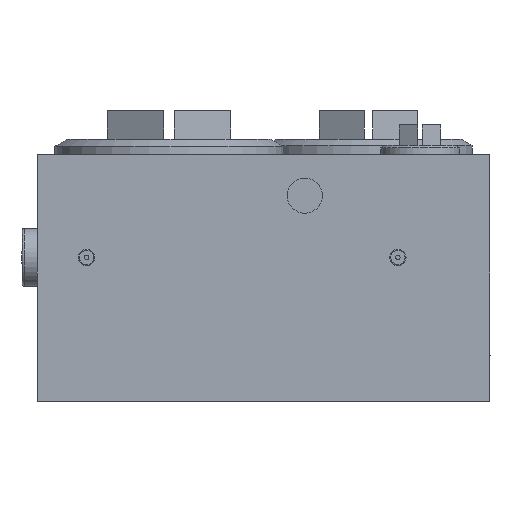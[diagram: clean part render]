
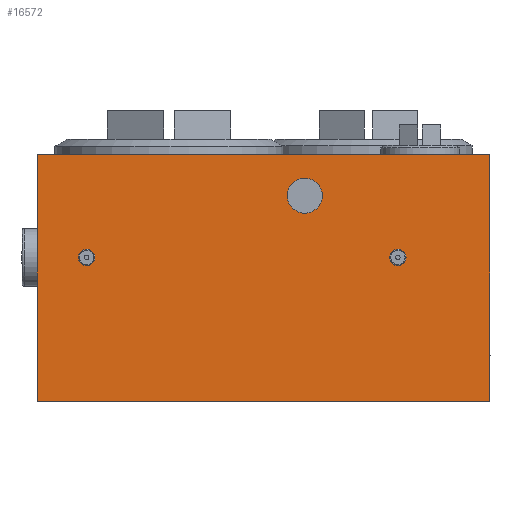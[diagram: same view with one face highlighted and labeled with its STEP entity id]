
A CAD part, left-side view. The second image highlights one B-rep face of the part: STEP entity #16572.
In plain terms, the highlighted planar face has unit normal (-1, 0, 0).
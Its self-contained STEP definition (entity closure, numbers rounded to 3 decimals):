
#1476 = FACE_BOUND ( 'NONE', #20568, .T. ) ;
#1507 = CARTESIAN_POINT ( 'NONE',  ( 0., -110., 0. ) ) ;
#2056 = ORIENTED_EDGE ( 'NONE', *, *, #21397, .F. ) ;
#2511 = CARTESIAN_POINT ( 'NONE',  ( 0., -110., 60. ) ) ;
#3288 = VERTEX_POINT ( 'NONE', #19279 ) ;
#3593 = DIRECTION ( 'NONE',  ( 1., 0., 0. ) ) ;
#3893 = ORIENTED_EDGE ( 'NONE', *, *, #16901, .F. ) ;
#4295 = EDGE_LOOP ( 'NONE', ( #17977 ) ) ;
#4305 = DIRECTION ( 'NONE',  ( 0., 0., 1. ) ) ;
#4559 = EDGE_CURVE ( 'NONE', #14317, #17355, #19371, .T. ) ;
#4968 = EDGE_LOOP ( 'NONE', ( #8102, #11429, #2056, #22033 ) ) ;
#5362 = EDGE_CURVE ( 'NONE', #3288, #17355, #24117, .T. ) ;
#5926 = CARTESIAN_POINT ( 'NONE',  ( 0., -110., 60. ) ) ;
#6388 = VERTEX_POINT ( 'NONE', #12188 ) ;
#6548 = CIRCLE ( 'NONE', #23202, 2. ) ;
#6880 = CARTESIAN_POINT ( 'NONE',  ( 0., -12., 37. ) ) ;
#7089 = EDGE_CURVE ( 'NONE', #20516, #3288, #7539, .T. ) ;
#7539 = LINE ( 'NONE', #13099, #21062 ) ;
#7554 = FACE_BOUND ( 'NONE', #4295, .T. ) ;
#8102 = ORIENTED_EDGE ( 'NONE', *, *, #5362, .T. ) ;
#9437 = VERTEX_POINT ( 'NONE', #18992 ) ;
#9526 = DIRECTION ( 'NONE',  ( 0., 0., 1. ) ) ;
#9633 = CARTESIAN_POINT ( 'NONE',  ( 0., -87.6, 35. ) ) ;
#10060 = DIRECTION ( 'NONE',  ( 0., 0., -1. ) ) ;
#10346 = EDGE_LOOP ( 'NONE', ( #23598 ) ) ;
#11382 = DIRECTION ( 'NONE',  ( 0., 1., 0. ) ) ;
#11420 = EDGE_CURVE ( 'NONE', #6388, #6388, #23839, .T. ) ;
#11429 = ORIENTED_EDGE ( 'NONE', *, *, #4559, .F. ) ;
#12160 = DIRECTION ( 'NONE',  ( 0., 0., 1. ) ) ;
#12188 = CARTESIAN_POINT ( 'NONE',  ( 0., -65., 54.25 ) ) ;
#12415 = EDGE_CURVE ( 'NONE', #13139, #13139, #17156, .T. ) ;
#12665 = DIRECTION ( 'NONE',  ( 0., -1., 0. ) ) ;
#12862 = AXIS2_PLACEMENT_3D ( 'NONE', #22347, #3593, #11382 ) ;
#13099 = CARTESIAN_POINT ( 'NONE',  ( 0., 0., 60. ) ) ;
#13139 = VERTEX_POINT ( 'NONE', #6880 ) ;
#13251 = PLANE ( 'NONE',  #12862 ) ;
#13360 = CARTESIAN_POINT ( 'NONE',  ( 0., -12., 35. ) ) ;
#14317 = VERTEX_POINT ( 'NONE', #5926 ) ;
#15107 = FACE_BOUND ( 'NONE', #10346, .T. ) ;
#15153 = AXIS2_PLACEMENT_3D ( 'NONE', #13360, #17239, #9526 ) ;
#16289 = CARTESIAN_POINT ( 'NONE',  ( 0., 0., 0. ) ) ;
#16298 = AXIS2_PLACEMENT_3D ( 'NONE', #18017, #23608, #12160 ) ;
#16572 = ADVANCED_FACE ( 'NONE', ( #7554, #15107, #1476, #22471 ), #13251, .F. ) ;
#16901 = EDGE_CURVE ( 'NONE', #9437, #9437, #6548, .T. ) ;
#17098 = DIRECTION ( 'NONE',  ( 0., 0., -1. ) ) ;
#17156 = CIRCLE ( 'NONE', #15153, 2. ) ;
#17239 = DIRECTION ( 'NONE',  ( -1., 0., 0. ) ) ;
#17355 = VERTEX_POINT ( 'NONE', #1507 ) ;
#17442 = DIRECTION ( 'NONE',  ( -1., 0., 0. ) ) ;
#17977 = ORIENTED_EDGE ( 'NONE', *, *, #11420, .F. ) ;
#18017 = CARTESIAN_POINT ( 'NONE',  ( 0., -65., 50. ) ) ;
#18992 = CARTESIAN_POINT ( 'NONE',  ( 0., -87.6, 37. ) ) ;
#19279 = CARTESIAN_POINT ( 'NONE',  ( 0., 0., 0. ) ) ;
#19371 = LINE ( 'NONE', #2511, #22955 ) ;
#19551 = LINE ( 'NONE', #23291, #19826 ) ;
#19826 = VECTOR ( 'NONE', #23647, 1000. ) ;
#20516 = VERTEX_POINT ( 'NONE', #24219 ) ;
#20568 = EDGE_LOOP ( 'NONE', ( #3893 ) ) ;
#20987 = VECTOR ( 'NONE', #12665, 1000. ) ;
#21062 = VECTOR ( 'NONE', #17098, 1000. ) ;
#21397 = EDGE_CURVE ( 'NONE', #20516, #14317, #19551, .T. ) ;
#22033 = ORIENTED_EDGE ( 'NONE', *, *, #7089, .T. ) ;
#22347 = CARTESIAN_POINT ( 'NONE',  ( 0., 0., 60. ) ) ;
#22471 = FACE_OUTER_BOUND ( 'NONE', #4968, .T. ) ;
#22955 = VECTOR ( 'NONE', #10060, 1000. ) ;
#23202 = AXIS2_PLACEMENT_3D ( 'NONE', #9633, #17442, #4305 ) ;
#23291 = CARTESIAN_POINT ( 'NONE',  ( 0., 0., 60. ) ) ;
#23598 = ORIENTED_EDGE ( 'NONE', *, *, #12415, .F. ) ;
#23608 = DIRECTION ( 'NONE',  ( -1., 0., 0. ) ) ;
#23647 = DIRECTION ( 'NONE',  ( 0., -1., 0. ) ) ;
#23839 = CIRCLE ( 'NONE', #16298, 4.25 ) ;
#24117 = LINE ( 'NONE', #16289, #20987 ) ;
#24219 = CARTESIAN_POINT ( 'NONE',  ( 0., 0., 60. ) ) ;
